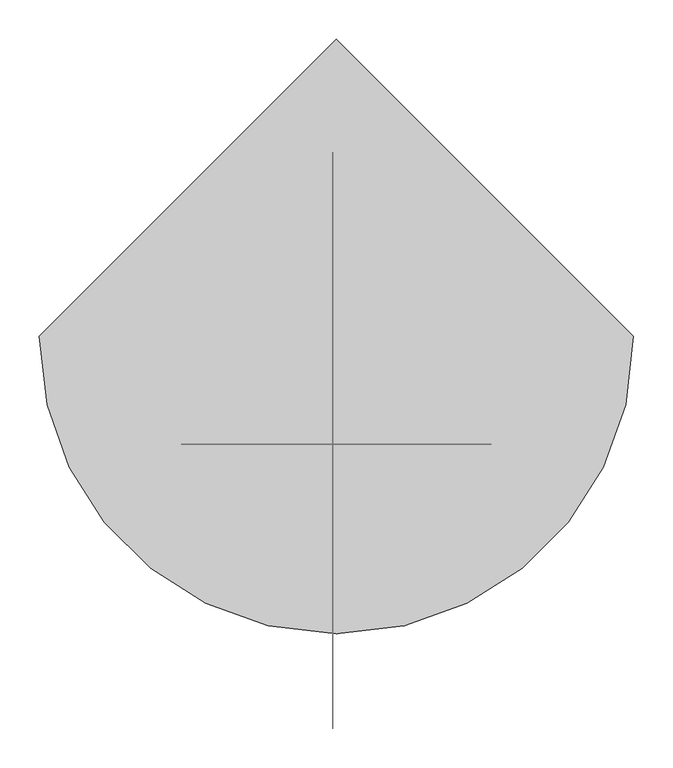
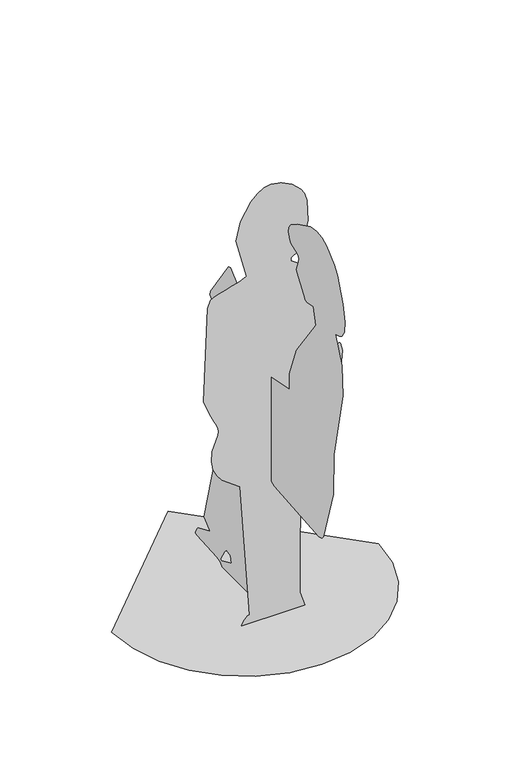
"""IFC4 building model written with IfcOpenShell, lengths in millimetres: geographic element geometry, Árvore - Caduca : Pessoa sentada."""

import ifcopenshell
import ifcopenshell.guid

model = None  # the IFC model being written
_history = None  # IfcOwnerHistory: only IFC2X3 demands one
_inside = {}  # id of a spatial element -> (the spatial element, [elements in it])
_under = {}  # id of a project, library or spatial element -> (it, [spatial elements below it])
_declared = {}  # id of a project -> (the project, [libraries it declares])
_typed = {}  # id of a type object -> (the type object, [elements of that type])
_made_of = {}  # id of a material, layer set ... -> (it, [elements and type objects made of it])


def new_model(schema):
    """Start an empty IFC model of exactly this schema.

    Asked for "IFC4X3", IfcOpenShell would pick the latest addendum, in which some entities
    have other attributes; the version numbers below select the first issue.
    IFC2X3 requires an IfcOwnerHistory on every rooted entity: one is made here for all.
    """
    global model, _history
    if schema == "IFC4X3":
        model = ifcopenshell.file(schema_version=(4, 3, 0, 0))
    else:
        model = ifcopenshell.file(schema=schema)
    _inside.clear()
    _under.clear()
    _declared.clear()
    _typed.clear()
    _made_of.clear()
    _history = None
    if model.schema == "IFC2X3":
        org = make("IfcOrganization", Name="unknown")
        user = make(
            "IfcPersonAndOrganization",
            ThePerson=make("IfcPerson", FamilyName="unknown"),
            TheOrganization=org,
        )
        app = make(
            "IfcApplication",
            ApplicationDeveloper=org,
            Version="unknown",
            ApplicationFullName="unknown",
            ApplicationIdentifier="unknown",
        )
        _history = make(
            "IfcOwnerHistory",
            OwningUser=user,
            OwningApplication=app,
            ChangeAction="ADDED",
            CreationDate=0,
        )
    return model


def make(cls, **values):
    """One entity of the class cls with the attributes given. An attribute that is None is left unset."""
    return model.create_entity(
        cls, **{name: value for name, value in values.items() if value is not None}
    )


def rooted(cls, **values):
    """An entity with a GlobalId (a new one), such as an element, a storey or a relation."""
    return make(cls, GlobalId=ifcopenshell.guid.new(), OwnerHistory=_history, **values)


def si_unit(unit_type, name, prefix=None):
    """IfcSIUnit, for example si_unit("LENGTHUNIT", "METRE", prefix="MILLI")."""
    return make("IfcSIUnit", UnitType=unit_type, Prefix=prefix, Name=name)


def assignment(units):
    """IfcUnitAssignment: the units of a project."""
    return None if units is None else make("IfcUnitAssignment", Units=units)


def point(xyz):
    """IfcCartesianPoint."""
    return None if xyz is None else make("IfcCartesianPoint", Coordinates=xyz)


def direction(xyz):
    """IfcDirection."""
    return None if xyz is None else make("IfcDirection", DirectionRatios=xyz)


def frame(location, z_axis=None, x_axis=None):
    """IfcAxis2Placement3D, a coordinate frame: its origin and axes. An axis left out is left unset."""
    return make(
        "IfcAxis2Placement3D",
        Location=point(location),
        Axis=direction(z_axis),
        RefDirection=direction(x_axis),
    )


def origin():
    """The frame at (0, 0, 0) with its axes left unset."""
    return frame((0.0, 0.0, 0.0))


def place(relative_to, where):
    """IfcLocalPlacement: puts the frame where relative to a parent placement (None: the world)."""
    return make(
        "IfcLocalPlacement", PlacementRelTo=relative_to, RelativePlacement=where
    )


def context(
    kind, dimensions, precision=None, world=None, true_north=None, identifier=None
):
    """IfcGeometricRepresentationContext, for example the 3D "Model" context."""
    return make(
        "IfcGeometricRepresentationContext",
        ContextIdentifier=identifier,
        ContextType=kind,
        CoordinateSpaceDimension=dimensions,
        Precision=precision,
        WorldCoordinateSystem=world,
        TrueNorth=true_north,
    )


def project(units=None, contexts=None):
    """IfcProject with its units and contexts."""
    return rooted(
        "IfcProject",
        Name="project",
        RepresentationContexts=contexts,
        UnitsInContext=assignment(units),
    )


def spatial(cls, under=None, at=None, **own):
    """A site, building, storey or space (cls), placed at a placement, below another one or the project."""
    s = rooted(cls, ObjectPlacement=at, **own)
    if under is not None:
        _under.setdefault(under.id(), (under, []))[1].append(s)
    return s


def point_list(points):
    """IfcCartesianPointList2D or 3D."""
    cls = (
        "IfcCartesianPointList2D" if len(points[0]) == 2 else "IfcCartesianPointList3D"
    )
    return make(cls, CoordList=points)


def triangles(points, corners, closed=None, point_numbers=None):
    """IfcTriangulatedFaceSet: each triangle names its three corners, points numbered from 1."""
    return make(
        "IfcTriangulatedFaceSet",
        Coordinates=point_list(points),
        Closed=closed,
        CoordIndex=corners,
        PnIndex=point_numbers,
    )


def shape(context_of_items, identifier, shape_type, items):
    """IfcShapeRepresentation: the items that make up one representation, for example the "Body"."""
    return make(
        "IfcShapeRepresentation",
        ContextOfItems=context_of_items,
        RepresentationIdentifier=identifier,
        RepresentationType=shape_type,
        Items=items,
    )


def source(mapping_origin, context_of_items, identifier, shape_type, items):
    """IfcRepresentationMap: a shape defined once, which mapped items show again and again."""
    return make(
        "IfcRepresentationMap",
        MappingOrigin=mapping_origin,
        MappedRepresentation=shape(context_of_items, identifier, shape_type, items),
    )


def transform(
    local_origin,
    x_axis=None,
    y_axis=None,
    z_axis=None,
    scale=None,
    scale2=None,
    scale3=None,
    uniform=True,
):
    """IfcCartesianTransformationOperator3D, or its non-uniform kind. x_axis, y_axis, z_axis: its Axis1, 2, 3."""
    if uniform:
        return make(
            "IfcCartesianTransformationOperator3D",
            Axis1=direction(x_axis),
            Axis2=direction(y_axis),
            LocalOrigin=point(local_origin),
            Scale=scale,
            Axis3=direction(z_axis),
        )
    return make(
        "IfcCartesianTransformationOperator3DnonUniform",
        Axis1=direction(x_axis),
        Axis2=direction(y_axis),
        LocalOrigin=point(local_origin),
        Scale=scale,
        Axis3=direction(z_axis),
        Scale2=scale2,
        Scale3=scale3,
    )


def mapped(mapping_source, mapping_target):
    """IfcMappedItem: shows the shape of a source again, moved by a transform."""
    return make(
        "IfcMappedItem", MappingSource=mapping_source, MappingTarget=mapping_target
    )


def made_of(thing, what):
    """Note that an element or type object is made of a material, layer set ...; save() writes the relation."""
    if what is not None:
        _made_of.setdefault(what.id(), (what, []))[1].append(thing)
    return thing


def element(
    cls,
    number,
    at=None,
    inside=None,
    cuts=None,
    type_object=None,
    material=None,
    context=None,
    identifier="Body",
    shape_type=None,
    held_by="IfcProductDefinitionShape",
    body=None,
    shapes=None,
    **own,
):
    """One element of the class cls, such as IfcWall. Its Tag is "e" and its number.

    at: its placement. inside: the storey or other place that contains it. cuts: it is an
    opening in that element (IfcRelVoidsElement). A single representation is given by context,
    identifier, shape_type and body (its items); several are given by shapes. held_by: the class
    of the entity that holds the representations. save() writes the other relations.
    """
    e = rooted(cls, Tag="e%d" % number, ObjectPlacement=at, **own)
    if body is not None:
        shapes = [shape(context, identifier, shape_type, body)]
    if shapes is not None:
        e.Representation = make(held_by, Representations=shapes)
    if inside is not None:
        _inside.setdefault(inside.id(), (inside, []))[1].append(e)
    if cuts is not None:
        rooted(
            "IfcRelVoidsElement", RelatingBuildingElement=cuts, RelatedOpeningElement=e
        )
    if type_object is not None:
        _typed.setdefault(type_object.id(), (type_object, []))[1].append(e)
    return made_of(e, material)


def aggregate(whole, parts):
    """IfcRelAggregates: a whole, such as a stair, and the parts it consists of."""
    return rooted("IfcRelAggregates", RelatingObject=whole, RelatedObjects=parts)


def save(model, path):
    """Write the relations noted so far, then the file.

    IfcRelAggregates (storeys below a building ...), IfcRelContainedInSpatialStructure (elements
    in a storey), IfcRelDefinesByType, IfcRelAssociatesMaterial and IfcRelDeclares: one each for
    every whole, place, type object, material and project.
    """
    for whole, parts in _under.values():
        aggregate(whole, parts)
    for where, things in _inside.values():
        rooted(
            "IfcRelContainedInSpatialStructure",
            RelatedElements=things,
            RelatingStructure=where,
        )
    for kind, things in _typed.values():
        rooted("IfcRelDefinesByType", RelatedObjects=things, RelatingType=kind)
    for what, things in _made_of.values():
        rooted("IfcRelAssociatesMaterial", RelatedObjects=things, RelatingMaterial=what)
    for by, libraries in _declared.values():
        rooted("IfcRelDeclares", RelatingContext=by, RelatedDefinitions=libraries)
    model.write(path)


def geographic_element_03ca2083(model_context):
    return source(origin(), model_context, "Body", "Tessellation", [
        triangles([(-379.3523898, 0.0, 2.54e-05), (-369.3235688, -86.9224923, 2.54e-05), (-340.7615404, -166.7468895, 2.54e-05), (-295.9533198, -237.1861402, 2.54e-05), (-237.1861583, -295.9533743, 2.54e-05), (-166.746835, -340.7615041, 2.54e-05), (-86.9224469, -369.3235325, 2.54e-05), (1.66e-05, -379.3523898, 2.54e-05), (86.9225014, -369.3235688, 2.54e-05), (166.7469077, -340.7615404, 2.54e-05), (237.1861583, -295.9533198, 2.54e-05), (295.953447, -237.1861583, 2.54e-05), (340.7615041, -166.7468169, 2.54e-05), (369.3235325, -86.9224287, 2.54e-05), (379.3523898, 2.91e-05, 2.54e-05), (-4.97e-05, 379.3524261, 2.54e-05), (-4.8417807, 62.6724509, 60.2864319), (-4.8417807, 58.1479269, 39.926174), (-4.841783, 107.917459, 17.3036665), (-4.841783, 112.4419557, 21.8281507), (-4.8417818, 93.3406416, 53.9803942), (-4.8417807, 83.0327134, 64.8109196), (-4.8417807, -24.8130385, 3.8e-06), (-4.8417801, -34.6043808, 30.8771669), (-4.8417801, -36.8664884, 32.3280844), (-4.8417795, -39.5903796, 33.9901491), (-4.8417795, -42.4989957, 35.7049472), (-4.8417795, -45.3153345, 37.3143512), (-4.8417795, -47.7623054, 38.6597178), (-4.8417795, -49.5629177, 39.5831535), (-4.8417795, -50.440108, 39.926174), (-4.8417807, -50.4401806, 4.6e-06), (-4.8417801, -94.5145162, 5.9e-06), (-4.8417795, -101.1267579, 25.8698962), (-4.8417761, -94.8357084, 141.933842), (-4.8417682, -39.4330082, 423.9753201), (-4.8417676, -41.3911418, 442.6069591), (-4.8417676, -45.9156249, 444.8691393), (-4.8417676, -153.2774537, 400.0239478), (-4.8417648, -373.8910226, 382.9488636), (-4.8417648, -387.515627, 386.0506365), (-4.8417642, -395.7067695, 395.4175429), (-4.8417585, -443.8710897, 551.7609069), (-4.8417551, -446.3341661, 673.3565735), (-4.8417483, -491.6570538, 878.2788763), (-4.841746, -487.0547184, 965.1869436), (-4.8417438, -453.1208885, 1039.8413258), (-4.8417432, -472.5714818, 1044.9590366), (-4.8417426, -486.8361634, 1053.9677164), (-4.8417421, -497.857075, 1072.4237846), (-4.8417409, -500.931742, 1104.1881248), (-4.8417398, -491.3576171, 1153.1211119), (-4.8417381, -464.432153, 1223.0836292), (-4.8417381, -448.3006522, 1243.7560593), (-4.8417375, -409.948015, 1278.9380688), (-4.8417375, -386.8798737, 1289.7475834), (-4.8417381, -360.6524411, 1293.5703152), (-4.8417381, -330.8421241, 1288.5553596), (-4.8417398, -267.2783441, 1257.9883301), (-4.8417409, -235.6853052, 1237.3452587), (-4.8417415, -225.5284578, 1223.6199337), (-4.8417421, -222.5084387, 1206.9657177), (-4.8417426, -229.1579965, 1186.8875828), (-4.8417426, -234.6979744, 1181.0832859), (-4.8417426, -266.7397323, 1167.5997339), (-4.8417426, -272.1182376, 1163.3693235), (-4.8417426, -274.403, 1157.4782587), (-4.8417432, -272.8303853, 1146.4477547), (-4.8417443, -263.0918082, 1119.0200684), (-4.8417443, -263.6545645, 1111.5134045), (-4.8417449, -299.1536877, 1064.7896576), (-4.841746, -303.8123423, 1055.6769871), (-4.841746, -307.0953177, 1052.3678141), (-4.841746, -313.0812532, 1051.2347437), (-4.8417449, -344.5328582, 1055.6769871), (-4.841746, -358.1063393, 1008.1697124), (-4.8417512, -260.8689969, 873.9520329), (-4.8417551, -228.0787927, 783.9400126), (-4.8417563, -226.8957799, 736.6996548), (-4.8417585, -131.2018117, 718.3590591), (-4.8417585, -113.7832074, 718.6016315), (-4.8417568, -127.4438198, 757.7272957), (-4.8417568, -127.3567158, 759.3221111), (-4.8417568, -118.43514, 763.8987213), (-4.8417551, 57.5057468, 921.9207619), (-4.8417551, 63.2860263, 926.5664085), (-4.8417551, 74.0109848, 922.7969439), (-4.8417602, 162.1417382, 795.2465172), (-4.8417608, 164.4737543, 784.2067841), (-4.8417619, 64.9346902, 695.9791025), (-4.8417625, 46.4300829, 666.6807455), (-4.8417625, 35.5254206, 657.5208395), (-4.8417625, 6.1159171, 650.7340445), (-4.8417636, -26.665846, 591.0486978), (-4.8417636, -27.8176062, 587.3910358), (-4.8417642, -2.426346, 583.9345971), (-4.8417654, 64.9346902, 578.3419516), (-4.8417818, 193.8829875, 98.7447086), (-4.8417818, 166.818088, 74.9735759), (-4.8417818, 164.4737543, 71.5976783), (-4.8417835, 223.2923298, 46.7129372), (-4.8417835, 226.4609954, 43.9234), (-4.8417841, 231.6102995, 36.3970017), (-4.8417841, 234.5675682, 28.7827158), (-4.8417841, 234.9963392, 25.8831676), (-4.8417841, 234.6034853, 24.0903923), (-4.8417841, 227.4626421, 21.4027202), (-4.841783, 128.7325675, 15.3746974), (-4.841783, 112.4419557, 10.5168998), (-4.841783, 103.4274169, 0.0), (-89.5375216, -137.8094843, 2.7224131), (-81.1653583, -137.8094843, 16.6928299), (-76.8767846, -137.8094843, 21.217975), (-71.9760527, -137.8094843, 24.6445804), (-66.5452886, -137.8094843, 26.3526225), (-93.6923098, -137.8095207, 419.9842484), (-144.4502672, -137.8095207, 458.0248406), (-159.2966176, -137.8095207, 476.8805211), (-170.1606165, -137.8095207, 499.0003919), (-175.2746394, -137.8095207, 524.4905874), (-172.8711342, -137.8095207, 553.4571333), (-156.782218, -137.8095207, 597.6260942), (-155.7210546, -137.8095207, 607.3841469), (-157.035382, -137.8095207, 616.8001419), (-161.3765051, -137.8095207, 628.7492672), (-167.2000959, -137.8095207, 641.6840155), (-180.9175725, -137.8095207, 669.444385), (-197.7558616, -137.8095207, 711.8146912), (-187.0215241, -137.8095479, 988.679187), (-177.3956037, -137.8095479, 1010.4318563), (-169.7687436, -137.8095479, 1015.1419613), (-154.7576141, -137.8095479, 1020.6639353), (-135.4095945, -137.8095479, 1026.603035), (-114.771928, -137.8095479, 1032.5637903), (-95.8919666, -137.8095479, 1038.151676), (-81.8169809, -137.8095479, 1042.9715126), (-75.5943002, -137.8095479, 1046.6279028), (-105.0035653, -137.8095479, 1162.0026918), (-91.9176362, -137.8095661, 1216.615274), (-62.6323371, -137.8095661, 1265.9887138), (-44.3626446, -137.8095661, 1284.3929684), (-24.9803316, -137.8095661, 1296.3057587), (-5.464504, -137.8095661, 1300.0000099), (24.6177561, -137.8095661, 1293.6678383), (54.6027536, -137.8095661, 1278.0871033), (79.9886314, -137.8095661, 1253.9638664), (89.5500754, -137.8095661, 1238.9191452), (97.2628586, -137.8095661, 1215.3253819), (99.0775189, -137.8095479, 1153.072423), (83.4177825, -137.8095479, 1092.0738934), (69.2875586, -137.8095479, 1070.0479122), (51.0917987, -137.8095479, 1057.9392036), (51.0917987, -137.8095479, 1048.8900467), (91.4669279, -137.8095479, 1021.1558384), (161.9420956, -137.8095479, 994.595977), (165.6100585, -137.8095479, 980.4675516), (171.2923061, -137.8095388, 758.661323), (188.342301, -137.8095388, 755.23566), (190.3550597, -137.8095388, 754.2937117), (192.0201107, -137.8095388, 752.0899944), (197.7558798, -137.8095207, 728.4776276), (189.0891123, -137.8095207, 630.373732), (188.0503857, -137.8095207, 629.3861469), (172.1236507, -137.8095207, 625.7568626), (170.9911072, -137.8095207, 625.8491535), (163.3401026, -137.8095207, 638.5363152), (152.8931022, -137.8095207, 650.7339718), (149.6773918, -137.8095207, 645.7306435), (147.0004658, -137.8095207, 639.8711174), (144.6650979, -137.8095207, 633.5064623), (142.4740615, -137.8095207, 626.9873835), (140.2302032, -137.8095207, 620.6649496), (137.7362875, -137.8095207, 614.8900114), (134.7950789, -137.8095207, 610.0133469), (142.7855433, -137.8095207, 505.2064811), (138.5609555, -137.8095207, 484.0462901), (130.2706004, -137.8095207, 465.2293427), (124.4413414, -137.8095207, 458.5554405), (91.4612505, -137.8095207, 442.0180052), (84.0381117, -137.8095207, 436.5621972), (78.2387836, -137.8095207, 429.0332963), (76.9846996, -137.8094843, 42.8623229), (91.4637576, -137.8094843, 6.42e-05), (-90.5567182, -137.8094843, 6.42e-05)], [[15, 16, 1], [14, 15, 1], [14, 1, 2], [13, 14, 2], [13, 2, 3], [13, 3, 4], [12, 13, 4], [11, 12, 4], [11, 4, 5], [11, 5, 6], [11, 6, 7], [11, 7, 8], [11, 8, 9], [11, 9, 10], [23, 17, 18], [110, 23, 18], [110, 18, 19], [109, 110, 19], [17, 23, 24], [31, 32, 33], [31, 33, 34], [109, 19, 20], [108, 109, 20], [88, 89, 90], [82, 83, 84], [85, 86, 87], [105, 106, 107], [104, 105, 107], [103, 104, 107], [102, 103, 107], [101, 102, 107], [100, 101, 107], [100, 107, 108], [100, 108, 20], [100, 20, 21], [100, 21, 22], [87, 88, 90], [85, 87, 90], [84, 85, 90], [84, 90, 91], [84, 91, 92], [84, 92, 93], [82, 84, 93], [81, 82, 93], [81, 93, 94], [80, 81, 94], [80, 94, 95], [99, 100, 22], [17, 24, 25], [17, 25, 26], [31, 34, 35], [30, 31, 35], [17, 26, 27], [17, 27, 28], [17, 28, 29], [29, 30, 35], [17, 29, 35], [22, 17, 35], [99, 22, 35], [98, 99, 35], [97, 98, 35], [97, 35, 36], [97, 36, 37], [96, 97, 37], [96, 37, 38], [95, 96, 38], [80, 95, 38], [80, 38, 39], [79, 80, 39], [79, 39, 40], [79, 40, 41], [79, 41, 42], [79, 42, 43], [79, 43, 44], [78, 79, 44], [77, 78, 44], [77, 44, 45], [77, 45, 46], [76, 77, 46], [76, 46, 47], [75, 76, 47], [72, 73, 74], [71, 72, 74], [61, 62, 63], [60, 61, 63], [60, 63, 64], [59, 60, 64], [59, 64, 65], [59, 65, 66], [58, 59, 66], [57, 58, 66], [56, 57, 66], [55, 56, 66], [54, 55, 66], [54, 66, 67], [53, 54, 67], [52, 53, 67], [52, 67, 68], [51, 52, 68], [50, 51, 68], [49, 50, 68], [48, 49, 68], [47, 48, 68], [75, 47, 68], [74, 75, 68], [71, 74, 68], [70, 71, 68], [69, 70, 68], [183, 184, 111], [183, 111, 112], [183, 112, 113], [183, 113, 114], [183, 114, 115], [182, 183, 115], [181, 182, 115], [181, 115, 116], [154, 155, 156], [164, 165, 166], [180, 181, 116], [163, 164, 166], [162, 163, 166], [162, 166, 167], [161, 162, 167], [160, 161, 167], [159, 160, 167], [158, 159, 167], [157, 158, 167], [180, 116, 117], [180, 117, 118], [180, 118, 119], [180, 119, 120], [180, 120, 121], [180, 121, 122], [179, 180, 122], [179, 122, 123], [178, 179, 123], [177, 178, 123], [176, 177, 123], [175, 176, 123], [174, 175, 123], [174, 123, 124], [174, 124, 125], [173, 174, 125], [172, 173, 125], [171, 172, 125], [170, 171, 125], [169, 170, 125], [169, 125, 126], [168, 169, 126], [168, 126, 127], [167, 168, 127], [157, 167, 127], [157, 127, 128], [156, 157, 128], [154, 156, 128], [153, 154, 128], [153, 128, 129], [153, 129, 130], [153, 130, 131], [153, 131, 132], [153, 132, 133], [153, 133, 134], [153, 134, 135], [153, 135, 136], [153, 136, 137], [152, 153, 137], [151, 152, 137], [150, 151, 137], [149, 150, 137], [149, 137, 138], [149, 138, 139], [148, 149, 139], [147, 148, 139], [146, 147, 139], [146, 139, 140], [145, 146, 140], [145, 140, 141], [144, 145, 141], [144, 141, 142], [144, 142, 143]], closed=False),
    ])


if __name__ == "__main__":
    model = new_model("IFC4")
    model_context = context("Model", 3, world=origin())
    ifc_project = project(units=[si_unit("LENGTHUNIT", "METRE", prefix="MILLI")], contexts=[model_context])
    site = spatial("IfcSite", under=ifc_project)
    building = spatial("IfcBuilding", under=site)
    placement = place(None, origin())
    geographic_element_shape = geographic_element_03ca2083(model_context)
    element("IfcGeographicElement", 1, ObjectType="Árvore - Caduca : Pessoa sentada", at=placement, inside=building, context=model_context, shape_type="MappedRepresentation", body=[
        mapped(geographic_element_shape, transform((0.0, 0.0, 0.0), x_axis=(1.0, 0.0, 0.0), y_axis=(0.0, 1.0, 0.0), z_axis=(0.0, 0.0, 1.0))),
    ])
    save(model, "model.ifc")
